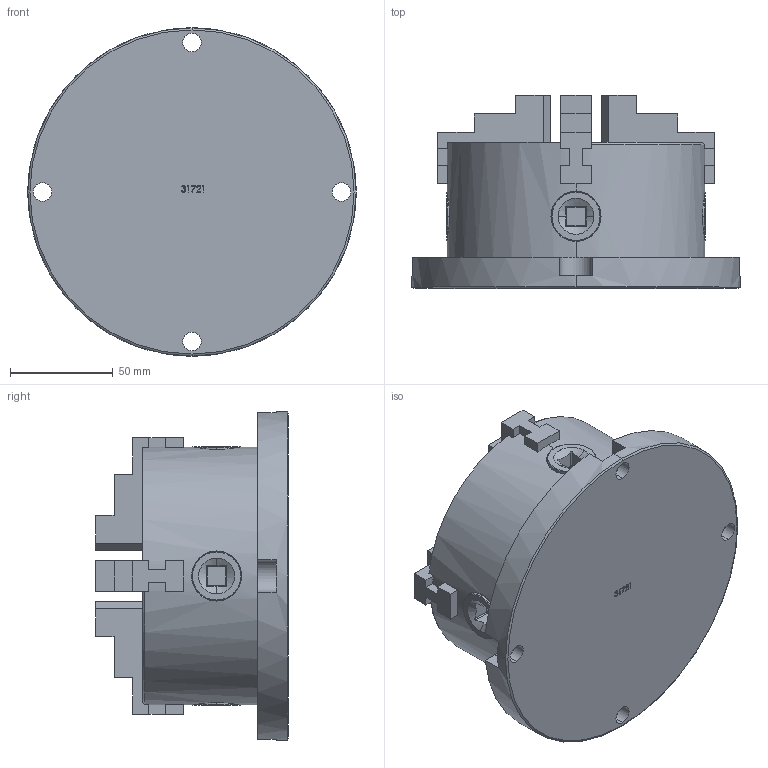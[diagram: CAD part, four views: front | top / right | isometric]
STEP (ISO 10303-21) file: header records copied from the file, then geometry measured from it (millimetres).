
FILE_DESCRIPTION (( 'STEP AP214' ), '1' );
FILE_NAME ('31721 4-JAW 6-INCH CHUCK.STEP', '2013-11-05T17:07:25', ( '' ), ( '' ), 'SwSTEP 2.0', 'SolidWorks 2012', '' );
FILE_SCHEMA (( 'AUTOMOTIVE_DESIGN' ));
Length unit declared in the file: millimetre
Products named in the file (1): 31721 4-JAW 6-INCH CHUCK
Bounding box: 160 x 94 x 160 mm (x, y, z)
Volume: 997945.8 mm3; surface area: 118368.5 mm2
Topology: 1 solids, 1 shells, 343 faces, 929 edges, 580 vertices
Faces by surface type: plane 203, cylinder 75, bspline 28, cone 21, sphere 16
Entity records: 21605 total; most frequent: CARTESIAN_POINT 13166, ORIENTED_EDGE 1826, DIRECTION 1638, EDGE_CURVE 913, VECTOR 584, LINE 584, VERTEX_POINT 580, AXIS2_PLACEMENT_3D 527
